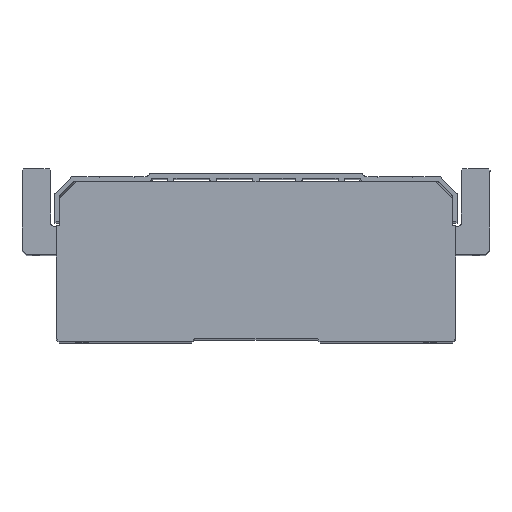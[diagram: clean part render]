
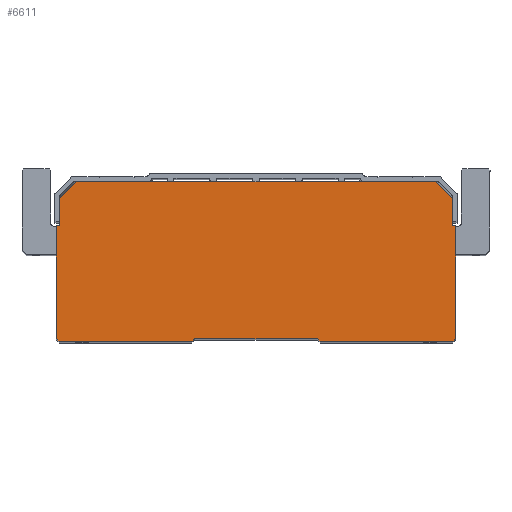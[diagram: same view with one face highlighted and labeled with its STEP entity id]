
A CAD part, top view. The second image highlights one B-rep face of the part: STEP entity #6611.
In plain terms, the highlighted planar face has unit normal (0, 0, 1).
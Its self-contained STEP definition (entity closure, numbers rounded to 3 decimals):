
#6399 = VERTEX_POINT ( 'NONE', #15656 ) ;
#6426 = EDGE_CURVE ( 'NONE', #6498, #6427, #15728, .T. ) ;
#6427 = VERTEX_POINT ( 'NONE', #15724 ) ;
#6442 = VERTEX_POINT ( 'NONE', #15769 ) ;
#6444 = EDGE_CURVE ( 'NONE', #6442, #6399, #15768, .T. ) ;
#6448 = EDGE_CURVE ( 'NONE', #6399, #6449, #15758, .T. ) ;
#6449 = VERTEX_POINT ( 'NONE', #15754 ) ;
#6472 = EDGE_CURVE ( 'NONE', #6491, #6473, #15779, .T. ) ;
#6473 = VERTEX_POINT ( 'NONE', #15835 ) ;
#6490 = EDGE_CURVE ( 'NONE', #6427, #6491, #15870, .T. ) ;
#6491 = VERTEX_POINT ( 'NONE', #15866 ) ;
#6497 = EDGE_CURVE ( 'NONE', #6498, #6449, #15860, .T. ) ;
#6498 = VERTEX_POINT ( 'NONE', #15856 ) ;
#6525 = EDGE_CURVE ( 'NONE', #6473, #6526, #15875, .T. ) ;
#6526 = VERTEX_POINT ( 'NONE', #15871 ) ;
#6536 = EDGE_CURVE ( 'NONE', #6526, #6537, #15919, .T. ) ;
#6537 = VERTEX_POINT ( 'NONE', #15915 ) ;
#6589 = EDGE_CURVE ( 'NONE', #6537, #6590, #16024, .T. ) ;
#6590 = VERTEX_POINT ( 'NONE', #16020 ) ;
#6592 = EDGE_CURVE ( 'NONE', #6677, #6593, #16019, .T. ) ;
#6593 = VERTEX_POINT ( 'NONE', #16015 ) ;
#6594 = ORIENTED_EDGE ( 'NONE', *, *, #6595, .T. ) ;
#6595 = EDGE_CURVE ( 'NONE', #6593, #6596, #16014, .T. ) ;
#6596 = VERTEX_POINT ( 'NONE', #16010 ) ;
#6597 = ORIENTED_EDGE ( 'NONE', *, *, #6659, .T. ) ;
#6598 = VERTEX_POINT ( 'NONE', #16009 ) ;
#6611 = ADVANCED_FACE ( 'NONE', ( #16049 ), #16048, .T. ) ;
#6612 = EDGE_LOOP ( 'NONE', ( #6671, #6672, #6675, #6678, #6594, #6597, #6660, #6663, #6665, #6666, #6667, #6668, #6669, #6670, #6646, #6647 ) ) ;
#6646 = ORIENTED_EDGE ( 'NONE', *, *, #6497, .T. ) ;
#6647 = ORIENTED_EDGE ( 'NONE', *, *, #6448, .F. ) ;
#6659 = EDGE_CURVE ( 'NONE', #6596, #6598, #16109, .T. ) ;
#6660 = ORIENTED_EDGE ( 'NONE', *, *, #6661, .T. ) ;
#6661 = EDGE_CURVE ( 'NONE', #6598, #6662, #16105, .T. ) ;
#6662 = VERTEX_POINT ( 'NONE', #16101 ) ;
#6663 = ORIENTED_EDGE ( 'NONE', *, *, #6664, .T. ) ;
#6664 = EDGE_CURVE ( 'NONE', #6662, #6590, #16100, .T. ) ;
#6665 = ORIENTED_EDGE ( 'NONE', *, *, #6589, .F. ) ;
#6666 = ORIENTED_EDGE ( 'NONE', *, *, #6536, .F. ) ;
#6667 = ORIENTED_EDGE ( 'NONE', *, *, #6525, .F. ) ;
#6668 = ORIENTED_EDGE ( 'NONE', *, *, #6472, .F. ) ;
#6669 = ORIENTED_EDGE ( 'NONE', *, *, #6490, .F. ) ;
#6670 = ORIENTED_EDGE ( 'NONE', *, *, #6426, .F. ) ;
#6671 = ORIENTED_EDGE ( 'NONE', *, *, #6444, .F. ) ;
#6672 = ORIENTED_EDGE ( 'NONE', *, *, #6673, .T. ) ;
#6673 = EDGE_CURVE ( 'NONE', #6442, #6674, #16159, .T. ) ;
#6674 = VERTEX_POINT ( 'NONE', #16155 ) ;
#6675 = ORIENTED_EDGE ( 'NONE', *, *, #6676, .T. ) ;
#6676 = EDGE_CURVE ( 'NONE', #6674, #6677, #16154, .T. ) ;
#6677 = VERTEX_POINT ( 'NONE', #16150 ) ;
#6678 = ORIENTED_EDGE ( 'NONE', *, *, #6592, .T. ) ;
#15656 = CARTESIAN_POINT ( 'NONE',  ( 140., 0., 0. ) ) ;
#15724 = CARTESIAN_POINT ( 'NONE',  ( 43., 0., 0. ) ) ;
#15725 = DIRECTION ( 'NONE',  ( -0.707, 0.707, 0. ) ) ;
#15726 = VECTOR ( 'NONE', #15725, 1000. ) ;
#15727 = CARTESIAN_POINT ( 'NONE',  ( 119.277, -76.277, 0. ) ) ;
#15728 = LINE ( 'NONE', #15727, #15726 ) ;
#15754 = CARTESIAN_POINT ( 'NONE',  ( 138., -2., 0. ) ) ;
#15755 = DIRECTION ( 'NONE',  ( -0.707, -0.707, 0. ) ) ;
#15756 = VECTOR ( 'NONE', #15755, 1000. ) ;
#15757 = CARTESIAN_POINT ( 'NONE',  ( -27.777, -167.777, 0. ) ) ;
#15758 = LINE ( 'NONE', #15757, #15756 ) ;
#15765 = DIRECTION ( 'NONE',  ( 0., -1., 0. ) ) ;
#15766 = VECTOR ( 'NONE', #15765, 1000. ) ;
#15767 = CARTESIAN_POINT ( 'NONE',  ( 140., -195.554, 0. ) ) ;
#15768 = LINE ( 'NONE', #15767, #15766 ) ;
#15769 = CARTESIAN_POINT ( 'NONE',  ( 140., 79., 0. ) ) ;
#15779 = LINE ( 'NONE', #15838, #15837 ) ;
#15835 = CARTESIAN_POINT ( 'NONE',  ( -45., -2., 0. ) ) ;
#15836 = DIRECTION ( 'NONE',  ( -0.707, -0.707, 0. ) ) ;
#15837 = VECTOR ( 'NONE', #15836, 1000. ) ;
#15838 = CARTESIAN_POINT ( 'NONE',  ( -119.277, -76.277, 0. ) ) ;
#15856 = CARTESIAN_POINT ( 'NONE',  ( 45., -2., 0. ) ) ;
#15857 = DIRECTION ( 'NONE',  ( 1., 0., 0. ) ) ;
#15858 = VECTOR ( 'NONE', #15857, 1000. ) ;
#15859 = CARTESIAN_POINT ( 'NONE',  ( 0., -2., 0. ) ) ;
#15860 = LINE ( 'NONE', #15859, #15858 ) ;
#15866 = CARTESIAN_POINT ( 'NONE',  ( -43., 0., 0. ) ) ;
#15867 = DIRECTION ( 'NONE',  ( -1., 0., 0. ) ) ;
#15868 = VECTOR ( 'NONE', #15867, 1000. ) ;
#15869 = CARTESIAN_POINT ( 'NONE',  ( 0., 0., 0. ) ) ;
#15870 = LINE ( 'NONE', #15869, #15868 ) ;
#15871 = CARTESIAN_POINT ( 'NONE',  ( -138., -2., 0. ) ) ;
#15872 = DIRECTION ( 'NONE',  ( -1., 0., 0. ) ) ;
#15873 = VECTOR ( 'NONE', #15872, 1000. ) ;
#15874 = CARTESIAN_POINT ( 'NONE',  ( 0., -2., 0. ) ) ;
#15875 = LINE ( 'NONE', #15874, #15873 ) ;
#15915 = CARTESIAN_POINT ( 'NONE',  ( -140., 0., 0. ) ) ;
#15916 = DIRECTION ( 'NONE',  ( -0.707, 0.707, 0. ) ) ;
#15917 = VECTOR ( 'NONE', #15916, 1000. ) ;
#15918 = CARTESIAN_POINT ( 'NONE',  ( 27.777, -167.777, 0. ) ) ;
#15919 = LINE ( 'NONE', #15918, #15917 ) ;
#16009 = CARTESIAN_POINT ( 'NONE',  ( -137.5, 98., 0. ) ) ;
#16010 = CARTESIAN_POINT ( 'NONE',  ( -125.5, 110., 0. ) ) ;
#16011 = DIRECTION ( 'NONE',  ( -1., 0., 0. ) ) ;
#16012 = VECTOR ( 'NONE', #16011, 1000. ) ;
#16013 = CARTESIAN_POINT ( 'NONE',  ( 125.5, 110., 0. ) ) ;
#16014 = LINE ( 'NONE', #16013, #16012 ) ;
#16015 = CARTESIAN_POINT ( 'NONE',  ( 125.5, 110., 0. ) ) ;
#16016 = DIRECTION ( 'NONE',  ( -0.707, 0.707, 0. ) ) ;
#16017 = VECTOR ( 'NONE', #16016, 1000. ) ;
#16018 = CARTESIAN_POINT ( 'NONE',  ( 137.5, 98., 0. ) ) ;
#16019 = LINE ( 'NONE', #16018, #16017 ) ;
#16020 = CARTESIAN_POINT ( 'NONE',  ( -140., 79., 0. ) ) ;
#16021 = DIRECTION ( 'NONE',  ( 0., 1., 0. ) ) ;
#16022 = VECTOR ( 'NONE', #16021, 1000. ) ;
#16023 = CARTESIAN_POINT ( 'NONE',  ( -140., -195.554, 0. ) ) ;
#16024 = LINE ( 'NONE', #16023, #16022 ) ;
#16044 = DIRECTION ( 'NONE',  ( 1., 0., 0. ) ) ;
#16045 = DIRECTION ( 'NONE',  ( 0., 0., 1. ) ) ;
#16046 = CARTESIAN_POINT ( 'NONE',  ( 0., -195.554, 0. ) ) ;
#16047 = AXIS2_PLACEMENT_3D ( 'NONE', #16046, #16045, #16044 ) ;
#16048 = PLANE ( 'NONE',  #16047 ) ;
#16049 = FACE_OUTER_BOUND ( 'NONE', #6612, .T. ) ;
#16097 = DIRECTION ( 'NONE',  ( -1., 0., 0. ) ) ;
#16098 = VECTOR ( 'NONE', #16097, 1000. ) ;
#16099 = CARTESIAN_POINT ( 'NONE',  ( -137.5, 79., 0. ) ) ;
#16100 = LINE ( 'NONE', #16099, #16098 ) ;
#16101 = CARTESIAN_POINT ( 'NONE',  ( -137.5, 79., 0. ) ) ;
#16102 = DIRECTION ( 'NONE',  ( 0., -1., 0. ) ) ;
#16103 = VECTOR ( 'NONE', #16102, 1000. ) ;
#16104 = CARTESIAN_POINT ( 'NONE',  ( -137.5, 98., 0. ) ) ;
#16105 = LINE ( 'NONE', #16104, #16103 ) ;
#16106 = DIRECTION ( 'NONE',  ( -0.707, -0.707, 0. ) ) ;
#16107 = VECTOR ( 'NONE', #16106, 1000. ) ;
#16108 = CARTESIAN_POINT ( 'NONE',  ( -137.5, 98., 0. ) ) ;
#16109 = LINE ( 'NONE', #16108, #16107 ) ;
#16150 = CARTESIAN_POINT ( 'NONE',  ( 137.5, 98., 0. ) ) ;
#16151 = DIRECTION ( 'NONE',  ( 0., 1., 0. ) ) ;
#16152 = VECTOR ( 'NONE', #16151, 1000. ) ;
#16153 = CARTESIAN_POINT ( 'NONE',  ( 137.5, 98., 0. ) ) ;
#16154 = LINE ( 'NONE', #16153, #16152 ) ;
#16155 = CARTESIAN_POINT ( 'NONE',  ( 137.5, 79., 0. ) ) ;
#16156 = DIRECTION ( 'NONE',  ( -1., 0., 0. ) ) ;
#16157 = VECTOR ( 'NONE', #16156, 1000. ) ;
#16158 = CARTESIAN_POINT ( 'NONE',  ( 137.5, 79., 0. ) ) ;
#16159 = LINE ( 'NONE', #16158, #16157 ) ;
